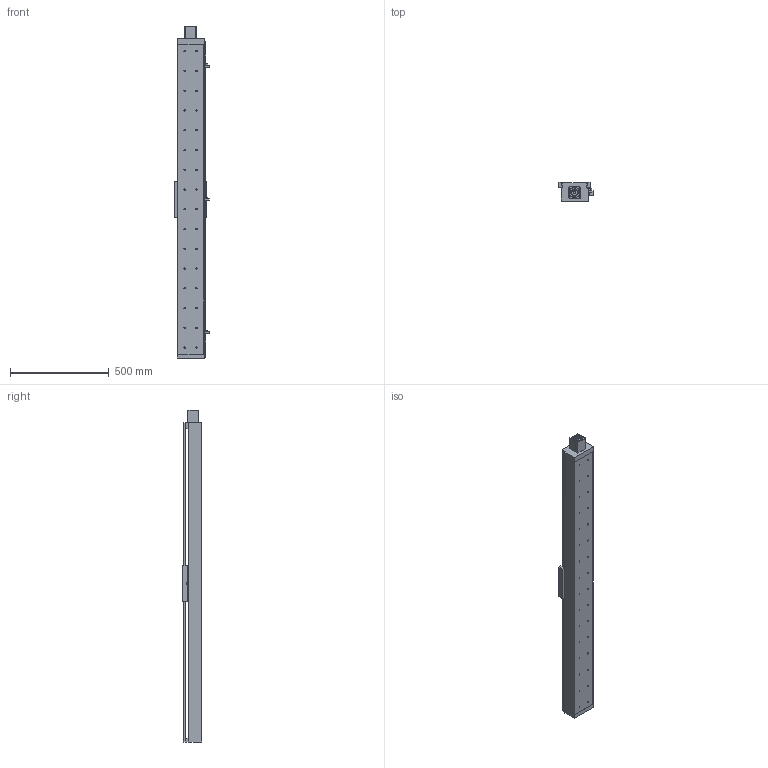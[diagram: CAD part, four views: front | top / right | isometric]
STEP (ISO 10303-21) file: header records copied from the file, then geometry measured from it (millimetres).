
FILE_DESCRIPTION((''),'2;1');
FILE_NAME('E:\libraries\UIA actuator library 2009\standard actuator\UIA136 ball screw 25\UIA136R15NDC-_ _ _-R25_ _, stp file 27Apr16\UIA136R15NDC-1350-R25_ _-M60-P13-C10-S.stp','2016-04-28T17:35:00',('h029'),(''),'Autodesk Inventor 11','Autodesk Inventor 11','');
FILE_SCHEMA(('AUTOMOTIVE_DESIGN { 1 0 10303 214 1 1 1 1 }'));
Length unit declared in the file: millimetre
Products named in the file (10): UIA136R15NDC-1350; UIA136R15NDC-body; motor mount F60; SOH-32C; SOH-32C-3; SOH-32C-1; SOH-32C-2; Carriage; Sensor Switch; sensor rail
Assembly tree (9 placements, depth 3):
  UIA136R15NDC-1350
    UIA136R15NDC-body
    motor mount F60
    SOH-32C
      SOH-32C-3
      SOH-32C-1
      SOH-32C-2
    Carriage
    Sensor Switch
    sensor rail
Bounding box: 174.5 x 98 x 1680 mm (x, y, z)
Volume: 5986728.9 mm3; surface area: 1711131.6 mm2
Topology: 8 solids, 8 shells, 556 faces, 1439 edges, 942 vertices
Faces by surface type: plane 324, bspline 182, cylinder 46, cone 4
Full cylindrical faces by diameter (mm): 2.459 x2, 3.242 x2, 4.5 x2, 7 x4, 7.5 x2, 14 x3, 17 x1, 32 x3, 37 x1, 50.3 x1, 50.5 x1
Entity records: 18180 total; most frequent: CARTESIAN_POINT 5492, ORIENTED_EDGE 2424, DIRECTION 2378, EDGE_CURVE 1212, EDGE_LOOP 880, VERTEX_POINT 878, VECTOR 816, LINE 816
